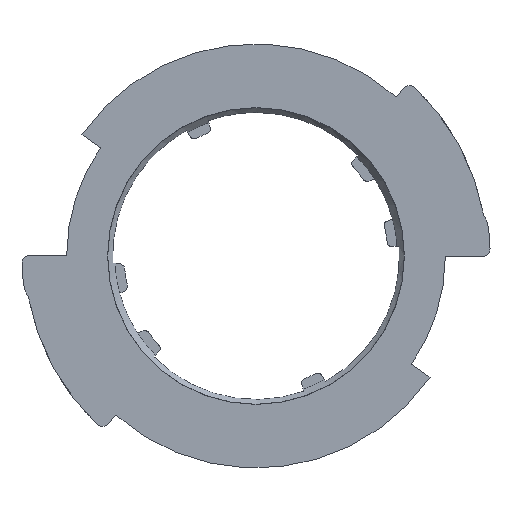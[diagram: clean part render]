
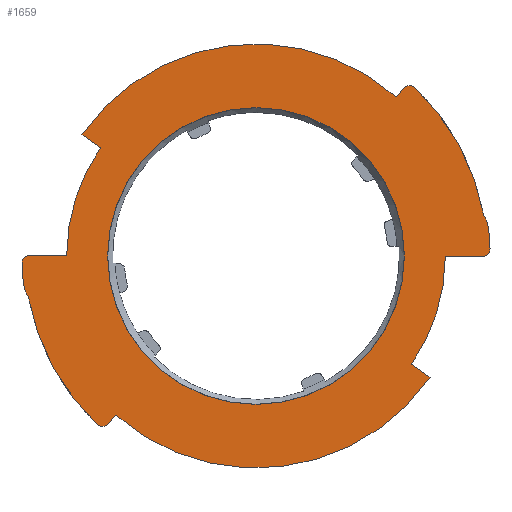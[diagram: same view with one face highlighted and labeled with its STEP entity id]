
A CAD part, front view. The second image highlights one B-rep face of the part: STEP entity #1659.
In plain terms, the highlighted planar face has unit normal (0, -1, 0).
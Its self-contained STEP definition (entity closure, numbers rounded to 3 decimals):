
#18=FACE_BOUND('',#539,.T.);
#86=PLANE('',#1825);
#146=LINE('',#3334,#226);
#148=LINE('',#3357,#228);
#149=LINE('',#3361,#229);
#150=LINE('',#3365,#230);
#151=LINE('',#3377,#231);
#152=LINE('',#3381,#232);
#226=VECTOR('',#2184,10.);
#228=VECTOR('',#2196,10.);
#229=VECTOR('',#2199,10.);
#230=VECTOR('',#2202,10.);
#231=VECTOR('',#2213,10.);
#232=VECTOR('',#2216,10.);
#314=CIRCLE('',#1822,0.535);
#316=CIRCLE('',#1826,16.735);
#317=CIRCLE('',#1827,2.035);
#318=CIRCLE('',#1828,16.535);
#319=CIRCLE('',#1829,0.535);
#320=CIRCLE('',#1830,15.16);
#321=CIRCLE('',#1831,13.535);
#322=CIRCLE('',#1832,0.535);
#323=CIRCLE('',#1833,16.735);
#324=CIRCLE('',#1834,2.035);
#325=CIRCLE('',#1835,16.535);
#326=CIRCLE('',#1836,0.535);
#327=CIRCLE('',#1837,15.16);
#328=CIRCLE('',#1838,13.535);
#329=CIRCLE('',#1839,10.61);
#449=FACE_OUTER_BOUND('',#538,.T.);
#538=EDGE_LOOP('',(#1335,#1336,#1337,#1338,#1339,#1340,#1341,#1342,#1343,
#1344,#1345,#1346,#1347,#1348,#1349,#1350,#1351,#1352,#1353,#1354));
#539=EDGE_LOOP('',(#1355));
#726=VERTEX_POINT('',#3324);
#727=VERTEX_POINT('',#3325);
#730=VERTEX_POINT('',#3333);
#733=VERTEX_POINT('',#3348);
#734=VERTEX_POINT('',#3350);
#735=VERTEX_POINT('',#3352);
#736=VERTEX_POINT('',#3354);
#737=VERTEX_POINT('',#3356);
#738=VERTEX_POINT('',#3358);
#739=VERTEX_POINT('',#3360);
#740=VERTEX_POINT('',#3362);
#741=VERTEX_POINT('',#3364);
#742=VERTEX_POINT('',#3366);
#743=VERTEX_POINT('',#3368);
#744=VERTEX_POINT('',#3370);
#745=VERTEX_POINT('',#3372);
#746=VERTEX_POINT('',#3374);
#747=VERTEX_POINT('',#3376);
#748=VERTEX_POINT('',#3378);
#749=VERTEX_POINT('',#3380);
#750=VERTEX_POINT('',#3383);
#947=EDGE_CURVE('',#726,#727,#314,.F.);
#951=EDGE_CURVE('',#730,#727,#146,.T.);
#956=EDGE_CURVE('',#733,#726,#316,.F.);
#957=EDGE_CURVE('',#734,#733,#317,.F.);
#958=EDGE_CURVE('',#734,#735,#318,.T.);
#959=EDGE_CURVE('',#735,#736,#319,.T.);
#960=EDGE_CURVE('',#736,#737,#148,.T.);
#961=EDGE_CURVE('',#738,#737,#320,.F.);
#962=EDGE_CURVE('',#739,#738,#149,.T.);
#963=EDGE_CURVE('',#739,#740,#321,.T.);
#964=EDGE_CURVE('',#740,#741,#150,.T.);
#965=EDGE_CURVE('',#742,#741,#322,.F.);
#966=EDGE_CURVE('',#743,#742,#323,.F.);
#967=EDGE_CURVE('',#744,#743,#324,.F.);
#968=EDGE_CURVE('',#744,#745,#325,.T.);
#969=EDGE_CURVE('',#745,#746,#326,.T.);
#970=EDGE_CURVE('',#746,#747,#151,.T.);
#971=EDGE_CURVE('',#748,#747,#327,.F.);
#972=EDGE_CURVE('',#748,#749,#152,.F.);
#973=EDGE_CURVE('',#749,#730,#328,.T.);
#974=EDGE_CURVE('',#750,#750,#329,.T.);
#1335=ORIENTED_EDGE('',*,*,#947,.F.);
#1336=ORIENTED_EDGE('',*,*,#956,.F.);
#1337=ORIENTED_EDGE('',*,*,#957,.F.);
#1338=ORIENTED_EDGE('',*,*,#958,.T.);
#1339=ORIENTED_EDGE('',*,*,#959,.T.);
#1340=ORIENTED_EDGE('',*,*,#960,.T.);
#1341=ORIENTED_EDGE('',*,*,#961,.F.);
#1342=ORIENTED_EDGE('',*,*,#962,.F.);
#1343=ORIENTED_EDGE('',*,*,#963,.T.);
#1344=ORIENTED_EDGE('',*,*,#964,.T.);
#1345=ORIENTED_EDGE('',*,*,#965,.F.);
#1346=ORIENTED_EDGE('',*,*,#966,.F.);
#1347=ORIENTED_EDGE('',*,*,#967,.F.);
#1348=ORIENTED_EDGE('',*,*,#968,.T.);
#1349=ORIENTED_EDGE('',*,*,#969,.T.);
#1350=ORIENTED_EDGE('',*,*,#970,.T.);
#1351=ORIENTED_EDGE('',*,*,#971,.F.);
#1352=ORIENTED_EDGE('',*,*,#972,.T.);
#1353=ORIENTED_EDGE('',*,*,#973,.T.);
#1354=ORIENTED_EDGE('',*,*,#951,.T.);
#1355=ORIENTED_EDGE('',*,*,#974,.T.);
#1659=ADVANCED_FACE('',(#449,#18),#86,.F.);
#1822=AXIS2_PLACEMENT_3D('',#3326,#2176,#2177);
#1825=AXIS2_PLACEMENT_3D('',#3347,#2186,#2187);
#1826=AXIS2_PLACEMENT_3D('',#3349,#2188,#2189);
#1827=AXIS2_PLACEMENT_3D('',#3351,#2190,#2191);
#1828=AXIS2_PLACEMENT_3D('',#3353,#2192,#2193);
#1829=AXIS2_PLACEMENT_3D('',#3355,#2194,#2195);
#1830=AXIS2_PLACEMENT_3D('',#3359,#2197,#2198);
#1831=AXIS2_PLACEMENT_3D('',#3363,#2200,#2201);
#1832=AXIS2_PLACEMENT_3D('',#3367,#2203,#2204);
#1833=AXIS2_PLACEMENT_3D('',#3369,#2205,#2206);
#1834=AXIS2_PLACEMENT_3D('',#3371,#2207,#2208);
#1835=AXIS2_PLACEMENT_3D('',#3373,#2209,#2210);
#1836=AXIS2_PLACEMENT_3D('',#3375,#2211,#2212);
#1837=AXIS2_PLACEMENT_3D('',#3379,#2214,#2215);
#1838=AXIS2_PLACEMENT_3D('',#3382,#2217,#2218);
#1839=AXIS2_PLACEMENT_3D('',#3384,#2219,#2220);
#2176=DIRECTION('center_axis',(0.,-1.,0.));
#2177=DIRECTION('ref_axis',(-0.718,0.,0.696));
#2184=DIRECTION('',(-1.,0.,0.));
#2186=DIRECTION('center_axis',(0.,1.,0.));
#2187=DIRECTION('ref_axis',(0.,0.,1.));
#2188=DIRECTION('center_axis',(0.,-1.,0.));
#2189=DIRECTION('ref_axis',(-0.993,0.,-0.121));
#2190=DIRECTION('center_axis',(0.,-1.,0.));
#2191=DIRECTION('ref_axis',(-0.825,0.,-0.566));
#2192=DIRECTION('center_axis',(0.,-1.,0.));
#2193=DIRECTION('ref_axis',(0.,0.,-1.));
#2194=DIRECTION('center_axis',(0.,-1.,0.));
#2195=DIRECTION('ref_axis',(0.,0.,-1.));
#2196=DIRECTION('',(0.663,0.,0.749));
#2197=DIRECTION('center_axis',(0.,-1.,0.));
#2198=DIRECTION('ref_axis',(0.819,0.,-0.574));
#2199=DIRECTION('',(0.819,0.,-0.574));
#2200=DIRECTION('center_axis',(0.,-1.,0.));
#2201=DIRECTION('ref_axis',(0.,0.,-1.));
#2202=DIRECTION('',(1.,0.,0.));
#2203=DIRECTION('center_axis',(0.,-1.,0.));
#2204=DIRECTION('ref_axis',(0.718,0.,-0.696));
#2205=DIRECTION('center_axis',(0.,-1.,0.));
#2206=DIRECTION('ref_axis',(0.993,0.,0.121));
#2207=DIRECTION('center_axis',(0.,-1.,0.));
#2208=DIRECTION('ref_axis',(0.825,0.,0.566));
#2209=DIRECTION('center_axis',(0.,-1.,0.));
#2210=DIRECTION('ref_axis',(0.,0.,-1.));
#2211=DIRECTION('center_axis',(0.,-1.,0.));
#2212=DIRECTION('ref_axis',(0.,0.,-1.));
#2213=DIRECTION('',(-0.663,0.,-0.749));
#2214=DIRECTION('center_axis',(0.,-1.,0.));
#2215=DIRECTION('ref_axis',(-0.819,0.,0.574));
#2216=DIRECTION('',(-0.819,0.,0.574));
#2217=DIRECTION('center_axis',(0.,-1.,0.));
#2218=DIRECTION('ref_axis',(0.,0.,-1.));
#2219=DIRECTION('center_axis',(0.,1.,0.));
#2220=DIRECTION('ref_axis',(0.,0.,1.));
#3324=CARTESIAN_POINT('',(-16.727,0.,-0.517));
#3325=CARTESIAN_POINT('',(-16.192,0.,0.035));
#3326=CARTESIAN_POINT('Origin',(-16.192,0.,-0.5));
#3333=CARTESIAN_POINT('',(-13.535,0.,0.035));
#3334=CARTESIAN_POINT('',(0.,0.,0.035));
#3347=CARTESIAN_POINT('Origin',(0.,0.,0.));
#3348=CARTESIAN_POINT('',(-16.612,0.,-2.028));
#3349=CARTESIAN_POINT('Origin',(0.,0.,0.));
#3350=CARTESIAN_POINT('',(-16.274,0.,-2.927));
#3351=CARTESIAN_POINT('Origin',(-14.592,0.,-1.782));
#3352=CARTESIAN_POINT('',(-11.338,0.,-12.035));
#3353=CARTESIAN_POINT('Origin',(0.,0.,0.));
#3354=CARTESIAN_POINT('',(-10.571,0.,-12.001));
#3355=CARTESIAN_POINT('Origin',(-10.971,0.,-11.646));
#3356=CARTESIAN_POINT('',(-10.019,0.,-11.377));
#3357=CARTESIAN_POINT('',(0.026,0.,-0.023));
#3358=CARTESIAN_POINT('',(12.438,0.,-8.667));
#3359=CARTESIAN_POINT('Origin',(0.,0.,0.));
#3360=CARTESIAN_POINT('',(11.107,0.,-7.735));
#3361=CARTESIAN_POINT('',(0.02,0.,0.029));
#3362=CARTESIAN_POINT('',(13.535,0.,-0.035));
#3363=CARTESIAN_POINT('Origin',(0.,0.,0.));
#3364=CARTESIAN_POINT('',(16.192,0.,-0.035));
#3365=CARTESIAN_POINT('',(0.,0.,-0.035));
#3366=CARTESIAN_POINT('',(16.727,0.,0.517));
#3367=CARTESIAN_POINT('Origin',(16.192,0.,0.5));
#3368=CARTESIAN_POINT('',(16.612,0.,2.028));
#3369=CARTESIAN_POINT('Origin',(0.,0.,0.));
#3370=CARTESIAN_POINT('',(16.274,0.,2.927));
#3371=CARTESIAN_POINT('Origin',(14.592,0.,1.782));
#3372=CARTESIAN_POINT('',(11.338,0.,12.035));
#3373=CARTESIAN_POINT('Origin',(0.,0.,0.));
#3374=CARTESIAN_POINT('',(10.571,0.,12.001));
#3375=CARTESIAN_POINT('Origin',(10.971,0.,11.646));
#3376=CARTESIAN_POINT('',(10.019,0.,11.377));
#3377=CARTESIAN_POINT('',(-0.026,0.,0.023));
#3378=CARTESIAN_POINT('',(-12.438,0.,8.667));
#3379=CARTESIAN_POINT('Origin',(0.,0.,0.));
#3380=CARTESIAN_POINT('',(-11.107,0.,7.735));
#3381=CARTESIAN_POINT('',(-0.02,0.,-0.029));
#3382=CARTESIAN_POINT('Origin',(0.,0.,0.));
#3383=CARTESIAN_POINT('',(0.,0.,10.61));
#3384=CARTESIAN_POINT('Origin',(0.,0.,0.));
